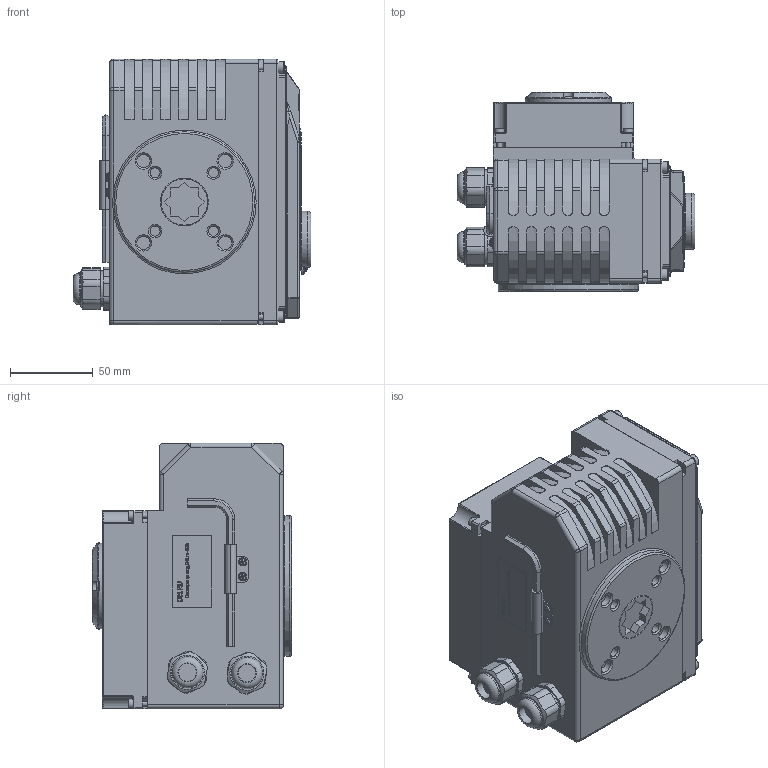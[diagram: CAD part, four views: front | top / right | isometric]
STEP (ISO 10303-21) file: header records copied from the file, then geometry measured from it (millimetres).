
FILE_DESCRIPTION(/* description */ ('D300-14480','CAx-IF Rec.Pracs.---Representation and Presentation of Product Manufacturing Information (PMI)---4.0---2014-10-13'),/* implementation_level */ '2;1');
FILE_NAME(/* name */ '',/* time_stamp */ '2026-04-01T01:18:03+03:00',/* author */ ('DN.RU'),/* organization */ ('DN.RU'),/* preprocessor_version */ 'ST-DEVELOPER v20',/* originating_system */ 'Autodesk Inventor 2025',/* authorisation */ '');
FILE_SCHEMA (('AP242_MANAGED_MODEL_BASED_3D_ENGINEERING_MIM_LF { 1 0 10303 442 1 1 4 }'));
Length unit declared in the file: millimetre
Products named in the file (1): QT-N-008EM-O1-220VAC-У1 HARK
Bounding box: 144.09 x 120.5 x 161 mm (x, y, z)
Volume: 1717453.3 mm3; surface area: 141915.9 mm2
Topology: 1 solids, 1 shells, 1339 faces, 3583 edges, 2333 vertices
Faces by surface type: plane 628, bspline 274, cylinder 249, cone 91, torus 71, sphere 26
Full cylindrical faces by diameter (mm): 3 x4, 4 x4, 5.5 x4, 6 x4, 7 x4, 8 x4, 10.772 x2, 18.963 x2, 21.521 x2, 28 x1, 29 x1, 34.169 x1, 34.486 x1, 40 x1, 42.826 x1, 52 x1, 85 x1
Entity records: 46803 total; most frequent: CARTESIAN_POINT 13897, ORIENTED_EDGE 7132, DIRECTION 5660, EDGE_CURVE 3566, VERTEX_POINT 2333, LINE 1894, VECTOR 1894, AXIS2_PLACEMENT_3D 1883
